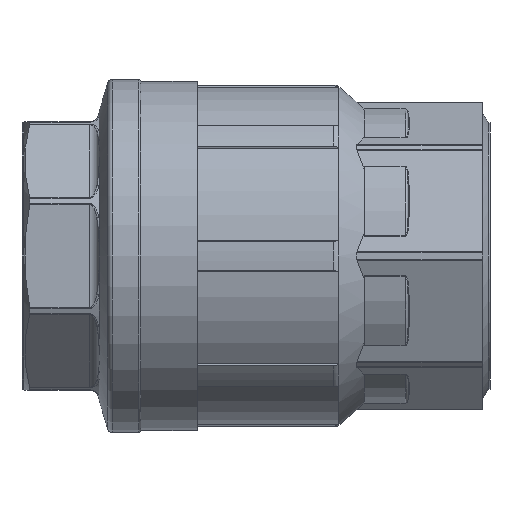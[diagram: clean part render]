
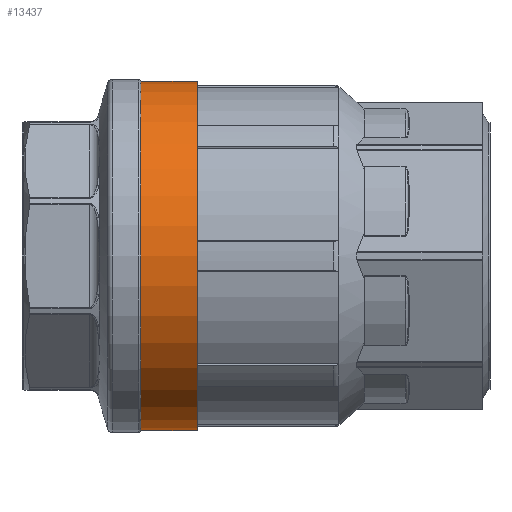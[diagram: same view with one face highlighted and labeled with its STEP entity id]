
A CAD part, front view. The second image highlights one B-rep face of the part: STEP entity #13437.
In plain terms, the highlighted cylindrical face has radius 45.466 mm (diameter 90.932 mm), a partial arc.
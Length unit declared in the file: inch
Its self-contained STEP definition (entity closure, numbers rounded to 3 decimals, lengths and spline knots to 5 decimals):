
#604 = VECTOR ( 'NONE', #6143, 39.37008 ) ;
#726 = CARTESIAN_POINT ( 'NONE',  ( -1.175, 0., -1.79 ) ) ;
#2209 = ORIENTED_EDGE ( 'NONE', *, *, #8480, .F. ) ;
#2443 = ORIENTED_EDGE ( 'NONE', *, *, #7082, .F. ) ;
#3226 = CARTESIAN_POINT ( 'NONE',  ( -1.175, 0., 0. ) ) ;
#3751 = FACE_OUTER_BOUND ( 'NONE', #5974, .T. ) ;
#3946 = AXIS2_PLACEMENT_3D ( 'NONE', #3226, #10617, #4268 ) ;
#3953 = CIRCLE ( 'NONE', #3946, 1.79 ) ;
#4268 = DIRECTION ( 'NONE',  ( 0., 0., 1. ) ) ;
#4950 = CIRCLE ( 'NONE', #7468, 1.79 ) ;
#5738 = DIRECTION ( 'NONE',  ( 1., 0., 0. ) ) ;
#5778 = DIRECTION ( 'NONE',  ( -1., 0., 0. ) ) ;
#5857 = VERTEX_POINT ( 'NONE', #13286 ) ;
#5974 = EDGE_LOOP ( 'NONE', ( #8416, #2209, #10207, #2443 ) ) ;
#6143 = DIRECTION ( 'NONE',  ( -1., 0., 0. ) ) ;
#6303 = DIRECTION ( 'NONE',  ( 0., 0., 1. ) ) ;
#6349 = CARTESIAN_POINT ( 'NONE',  ( -0.595, 0., 0. ) ) ;
#6476 = VECTOR ( 'NONE', #5778, 39.37008 ) ;
#7082 = EDGE_CURVE ( 'NONE', #11991, #9300, #3953, .T. ) ;
#7126 = LINE ( 'NONE', #11080, #6476 ) ;
#7209 = CARTESIAN_POINT ( 'NONE',  ( -0.595, 0., -1.79 ) ) ;
#7422 = DIRECTION ( 'NONE',  ( -1., 0., 0. ) ) ;
#7468 = AXIS2_PLACEMENT_3D ( 'NONE', #12131, #5738, #13199 ) ;
#7729 = EDGE_CURVE ( 'NONE', #5857, #11991, #8018, .T. ) ;
#7934 = AXIS2_PLACEMENT_3D ( 'NONE', #6349, #7422, #6303 ) ;
#8018 = LINE ( 'NONE', #7209, #604 ) ;
#8416 = ORIENTED_EDGE ( 'NONE', *, *, #7729, .F. ) ;
#8480 = EDGE_CURVE ( 'NONE', #9806, #5857, #4950, .T. ) ;
#9300 = VERTEX_POINT ( 'NONE', #12534 ) ;
#9596 = EDGE_CURVE ( 'NONE', #9806, #9300, #7126, .T. ) ;
#9806 = VERTEX_POINT ( 'NONE', #12423 ) ;
#10207 = ORIENTED_EDGE ( 'NONE', *, *, #9596, .T. ) ;
#10617 = DIRECTION ( 'NONE',  ( -1., 0., 0. ) ) ;
#10873 = CYLINDRICAL_SURFACE ( 'NONE', #7934, 1.79 ) ;
#11080 = CARTESIAN_POINT ( 'NONE',  ( -0.595, 0., 1.79 ) ) ;
#11991 = VERTEX_POINT ( 'NONE', #726 ) ;
#12131 = CARTESIAN_POINT ( 'NONE',  ( -0.595, 0., 0. ) ) ;
#12423 = CARTESIAN_POINT ( 'NONE',  ( -0.595, 0., 1.79 ) ) ;
#12534 = CARTESIAN_POINT ( 'NONE',  ( -1.175, 0., 1.79 ) ) ;
#13199 = DIRECTION ( 'NONE',  ( 0., 0., -1. ) ) ;
#13286 = CARTESIAN_POINT ( 'NONE',  ( -0.595, 0., -1.79 ) ) ;
#13437 = ADVANCED_FACE ( 'NONE', ( #3751 ), #10873, .T. ) ;
